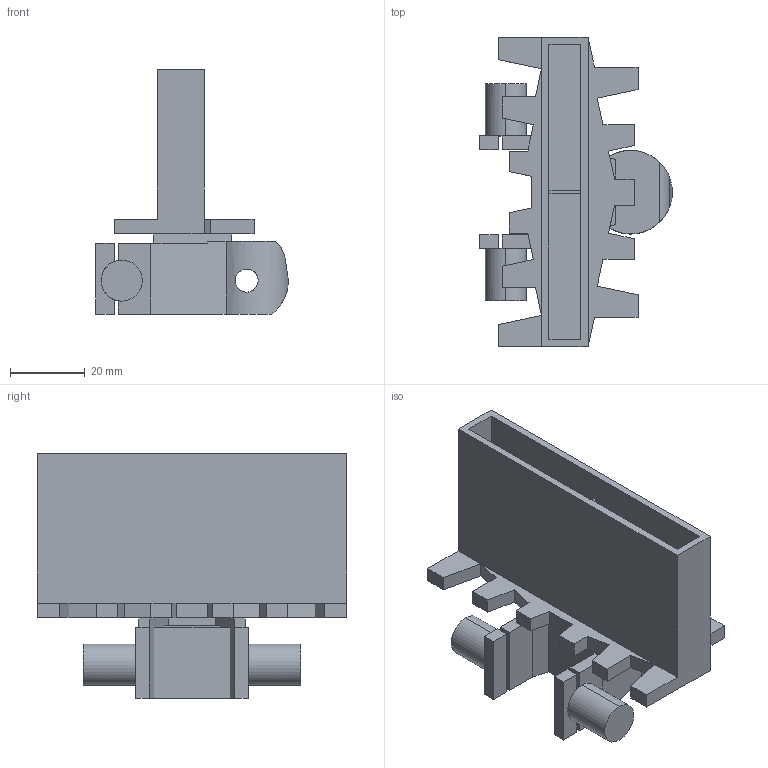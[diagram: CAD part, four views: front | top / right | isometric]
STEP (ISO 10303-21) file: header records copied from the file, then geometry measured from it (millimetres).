
FILE_DESCRIPTION (( 'STEP AP214' ), '1' );
FILE_NAME ('FMCT-5D-H40-P.STEP', '2011-09-28T08:25:45', ( '.' ), ( '' ), 'SwSTEP 2.0', 'SolidWorks 2010', '' );
FILE_SCHEMA (( 'AUTOMOTIVE_DESIGN' ));
Length unit declared in the file: millimetre
Products named in the file (1): FMCT-5D-H40-P
Bounding box: 51.65 x 83 x 65.5 mm (x, y, z)
Volume: 41240.3 mm3; surface area: 27523 mm2
Topology: 1 solids, 1 shells, 119 faces, 329 edges, 213 vertices
Faces by surface type: plane 109, cylinder 10
Entity records: 3889 total; most frequent: CARTESIAN_POINT 826, ORIENTED_EDGE 658, DIRECTION 579, EDGE_CURVE 329, VECTOR 299, LINE 299, VERTEX_POINT 213, AXIS2_PLACEMENT_3D 140
